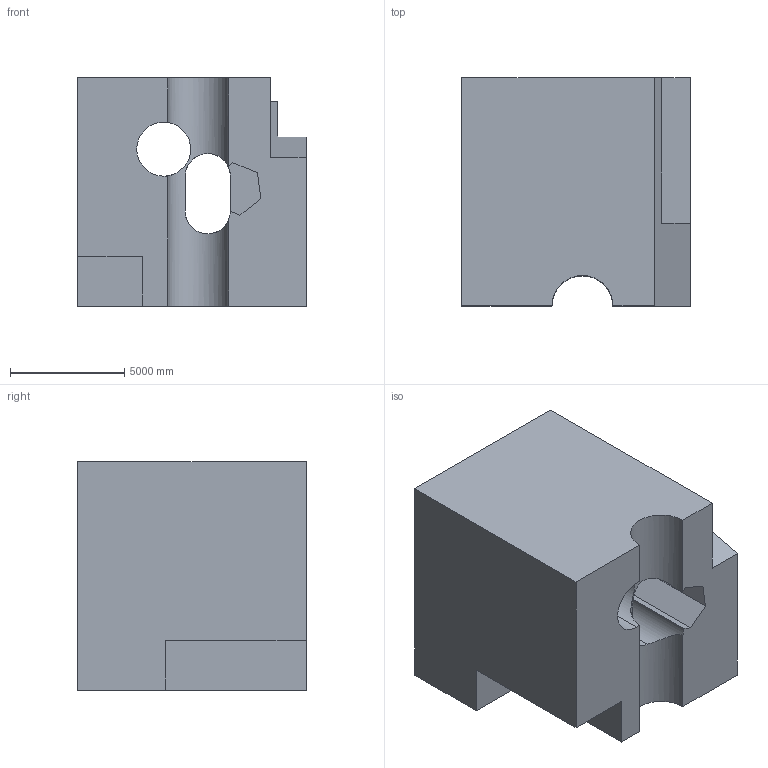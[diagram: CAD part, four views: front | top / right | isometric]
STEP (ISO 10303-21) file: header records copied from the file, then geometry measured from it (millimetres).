
FILE_DESCRIPTION (( 'STEP AP203' ), '1' );
FILE_NAME ('1674.STEP', '2022-08-19T11:36:34', ( 'user' ), ( '' ), 'SwSTEP 2.0', 'SolidWorks 2021', '' );
FILE_SCHEMA (( 'CONFIG_CONTROL_DESIGN' ));
Length unit declared in the file: centimetre
Products named in the file (1): 1674
Bounding box: 10000 x 10000 x 10000 mm (x, y, z)
Volume: 783418420842.4 mm3; surface area: 743845833.2 mm2
Topology: 1 solids, 1 shells, 28 faces, 83 edges, 55 vertices
Faces by surface type: plane 22, cylinder 6
Entity records: 1446 total; most frequent: CARTESIAN_POINT 608, ORIENTED_EDGE 166, DIRECTION 148, EDGE_CURVE 83, VECTOR 66, LINE 66, VERTEX_POINT 55, AXIS2_PLACEMENT_3D 41
